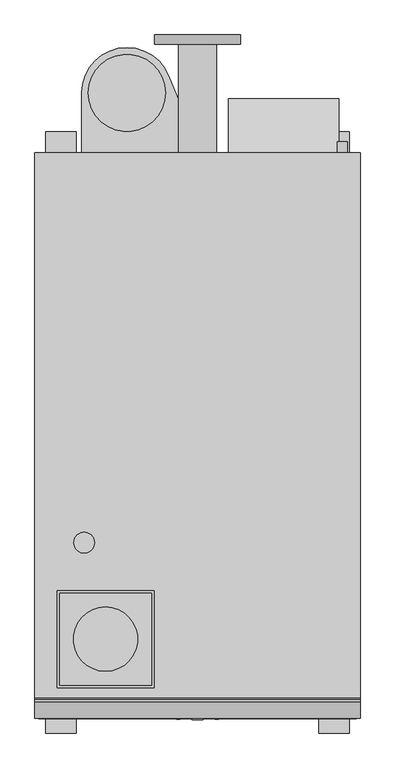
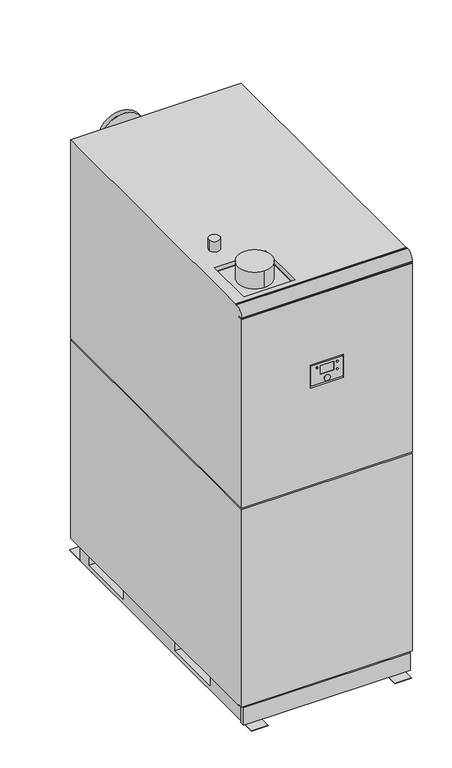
"""IFC4 building model written with IfcOpenShell, lengths in millimetres: unitary equipment geometry, AIC_Boiler_Nesta_Plus_280-840 : N 280 FS Chimney Type C."""

from ifc_helpers import new_model, si_unit, point, frame, frame_2d, origin, place, context, project, spatial, polyline, circle_curve, trimmed, segment, composite_curve, outline, extrude, faceted_brep, source, transform, mapped, element, save
from ifc_brep_helpers import plane_surface, cylinder_surface, advanced_brep


def unitary_equipment_8b69aa03(model_context):
    return source(origin(), model_context, "Body", "SolidModel", [
        extrude(outline(composite_curve([segment(trimmed(circle_curve(frame_2d((100.0, 277.0)), 13.35), [point((100.0, 290.35))], [point((100.0, 263.65))], False, "CARTESIAN"), True, "CONTINUOUS"), segment(trimmed(circle_curve(frame_2d((100.0, 277.0)), 13.35), [point((100.0, 263.65))], [point((100.0, 290.35))], False, "CARTESIAN"), True, "CONTINUOUS")], self_intersect=False)), frame((0.0, 91.0, 0.0), z_axis=(0.0, 1.0, 0.0), x_axis=(0.0, 0.0, 1.0)), (0.0, 0.0, 1.0), 24.0),
        faceted_brep([(330.0, 0.0, 80.0), (330.0, 126.0, 80.0), (330.0, 126.0, 81.0), (330.0, 1.0, 81.0), (330.0, 1.0, 140.0), (330.0, 126.0, 140.0), (330.0, 126.0, 242.0), (330.0, 0.0, 310.0), (72.0, 0.0, 80.0), (72.0, 0.0, 310.0), (72.0, 126.0, 242.0), (72.0, 126.0, 80.0), (248.0, 126.0, 140.0), (248.0, 126.0, 81.0), (297.0, 1.0, 140.0), (297.0, 1.0, 81.0), (297.0, 91.0, 81.0), (297.0, 91.0, 140.0), (248.0, 91.0, 81.0), (248.0, 91.0, 140.0)], [[[0, 1, 2, 3, 4, 5, 6, 7]], [[8, 9, 10, 11]], [[1, 0, 8, 11]], [[11, 10, 6, 5, 12, 13, 2, 1]], [[7, 6, 10, 9]], [[0, 7, 9, 8]], [[14, 4, 3, 15]], [[14, 15, 16, 17]], [[15, 3, 2, 13, 18, 16]], [[4, 14, 17, 19, 12, 5]], [[19, 17, 16, 18]], [[19, 18, 13, 12]]]),
        extrude(outline(composite_curve([segment(trimmed(circle_curve(frame_2d((1520.0, 0.0)), 13.0), [point((1520.0, -13.0))], [point((1520.0, 13.0))], False, "CARTESIAN"), True, "CONTINUOUS"), segment(trimmed(circle_curve(frame_2d((1520.0, 0.0)), 13.0), [point((1520.0, 13.0))], [point((1520.0, -13.0))], False, "CARTESIAN"), True, "CONTINUOUS")], self_intersect=False)), frame((0.0, -1323.0, 0.0), z_axis=(0.0, 1.0, 0.0), x_axis=(0.0, 0.0, 1.0)), (0.0, 0.0, 1.0), 3.0),
        extrude(outline(composite_curve([segment(trimmed(circle_curve(frame_2d((1581.0, -45.0)), 4.0), [point((1581.0, -49.0))], [point((1581.0, -41.0))], False, "CARTESIAN"), True, "CONTINUOUS"), segment(trimmed(circle_curve(frame_2d((1581.0, -45.0)), 4.0), [point((1581.0, -41.0))], [point((1581.0, -49.0))], False, "CARTESIAN"), True, "CONTINUOUS")], self_intersect=False)), frame((0.0, -1322.0, 0.0), z_axis=(0.0, 1.0, 0.0), x_axis=(0.0, 0.0, 1.0)), (0.0, 0.0, 1.0), 2.0),
        extrude(outline(composite_curve([segment(trimmed(circle_curve(frame_2d((1581.0, 45.0)), 4.0), [point((1581.0, 41.0))], [point((1581.0, 49.0))], False, "CARTESIAN"), True, "CONTINUOUS"), segment(trimmed(circle_curve(frame_2d((1581.0, 45.0)), 4.0), [point((1581.0, 49.0))], [point((1581.0, 41.0))], False, "CARTESIAN"), True, "CONTINUOUS")], self_intersect=False)), frame((0.0, -1322.0, 0.0), z_axis=(0.0, 1.0, 0.0), x_axis=(0.0, 0.0, 1.0)), (0.0, 0.0, 1.0), 2.0),
        extrude(outline(composite_curve([segment(trimmed(circle_curve(frame_2d((1546.0, 45.0)), 4.0), [point((1546.0, 41.0))], [point((1546.0, 49.0))], False, "CARTESIAN"), True, "CONTINUOUS"), segment(trimmed(circle_curve(frame_2d((1546.0, 45.0)), 4.0), [point((1546.0, 49.0))], [point((1546.0, 41.0))], False, "CARTESIAN"), True, "CONTINUOUS")], self_intersect=False)), frame((0.0, -1322.0, 0.0), z_axis=(0.0, 1.0, 0.0), x_axis=(0.0, 0.0, 1.0)), (0.0, 0.0, 1.0), 2.0),
        faceted_brep([(71.0, -1310.0, 1596.0), (71.0, -1310.0, 1502.0), (-71.0, -1310.0, 1502.0), (-71.0, -1310.0, 1596.0), (71.0, -1320.0, 1596.0), (-71.0, -1320.0, 1596.0), (-71.0, -1320.0, 1502.0), (71.0, -1320.0, 1502.0), (-30.0, -1320.0, 1585.0), (30.0, -1320.0, 1585.0), (30.0, -1320.0, 1545.0), (-30.0, -1320.0, 1545.0), (30.0, -1319.0, 1585.0), (-30.0, -1319.0, 1585.0), (-30.0, -1319.0, 1545.0), (30.0, -1319.0, 1545.0)], [[[0, 1, 2, 3]], [[4, 5, 6, 7], [8, 9, 10, 11]], [[0, 3, 5, 4]], [[3, 2, 6, 5]], [[2, 1, 7, 6]], [[1, 0, 4, 7]], [[12, 13, 14, 15]], [[13, 12, 9, 8]], [[14, 13, 8, 11]], [[15, 14, 11, 10]], [[12, 15, 10, 9]]]),
        extrude(outline(composite_curve([segment(trimmed(circle_curve(frame_2d((-265.0, -910.0)), 24.15), [point((-289.15, -910.0))], [point((-240.85, -910.0))], False, "CARTESIAN"), True, "CONTINUOUS"), segment(trimmed(circle_curve(frame_2d((-265.0, -910.0)), 24.15), [point((-240.85, -910.0))], [point((-289.15, -910.0))], False, "CARTESIAN"), True, "CONTINUOUS")], self_intersect=False)), frame((0.0, 0.0, 1970.0), z_axis=(0.0, 0.0, 1.0), x_axis=(1.0, 0.0, 0.0)), (0.0, 0.0, 1.0), 49.0),
        extrude(outline(composite_curve([segment(trimmed(circle_curve(frame_2d((1038.0, 338.0)), 11.6), [point((1038.0, 326.4))], [point((1038.0, 349.6))], False, "CARTESIAN"), True, "CONTINUOUS"), segment(trimmed(circle_curve(frame_2d((1038.0, 338.0)), 11.6), [point((1038.0, 349.6))], [point((1038.0, 326.4))], False, "CARTESIAN"), True, "CONTINUOUS")], self_intersect=False)), frame((0.0, 0.0, 0.0), z_axis=(0.0, 1.0, 0.0), x_axis=(0.0, 0.0, 1.0)), (0.0, 0.0, 1.0), 26.0),
        extrude(outline(composite_curve([segment(trimmed(circle_curve(frame_2d((-215.0, -1135.0)), 75.0), [point((-215.0, -1060.0))], [point((-215.0, -1210.0))], False, "CARTESIAN"), True, "CONTINUOUS"), segment(trimmed(circle_curve(frame_2d((-215.0, -1135.0)), 75.0), [point((-215.0, -1210.0))], [point((-215.0, -1060.0))], False, "CARTESIAN"), True, "CONTINUOUS")], self_intersect=False)), frame((0.0, 0.0, 1950.0), z_axis=(0.0, 0.0, 1.0), x_axis=(1.0, 0.0, 0.0)), (0.0, 0.0, 1.0), 80.0),
        extrude(outline(polyline([(-107.5, -1027.5), (-107.5, -1242.5), (-322.5, -1242.5), (-322.5, -1027.5), (-107.5, -1027.5)])), frame((0.0, 0.0, 1950.0), z_axis=(0.0, 0.0, 1.0), x_axis=(1.0, 0.0, 0.0)), (0.0, 0.0, 1.0), 1.0),
        advanced_brep(
        [(100.0, 253.0, 1706.0), (-100.0, 253.0, 1706.0), (44.0, 253.0, 1706.0), (-44.0, 253.0, 1706.0), (100.0, 275.0, 1706.0), (-100.0, 275.0, 1706.0), (-44.0, -10.0, 1706.0), (44.0, -10.0, 1706.0)],
        [
            (0, 1, circle_curve(frame((0.0, 253.0, 1706.0), z_axis=(0.0, -1.0, 0.0), x_axis=(-1.0, 0.0, 0.0)), 100.0)),
            (1, 0, circle_curve(frame((0.0, 253.0, 1706.0), z_axis=(0.0, -1.0, 0.0), x_axis=(-1.0, 0.0, 0.0)), 100.0)),
            (2, 3, circle_curve(frame((0.0, 253.0, 1706.0), z_axis=(0.0, 1.0, 0.0), x_axis=(1.0, 0.0, 0.0)), 44.0)),
            (3, 2, circle_curve(frame((0.0, 253.0, 1706.0), z_axis=(0.0, 1.0, 0.0), x_axis=(1.0, 0.0, 0.0)), 44.0)),
            (4, 5, circle_curve(frame((0.0, 275.0, 1706.0), z_axis=(0.0, 1.0, 0.0), x_axis=(-1.0, 0.0, 0.0)), 100.0)),
            (5, 4, circle_curve(frame((0.0, 275.0, 1706.0), z_axis=(0.0, 1.0, 0.0), x_axis=(-1.0, 0.0, 0.0)), 100.0)),
            (1, 5),
            (4, 0),
            (6, 7, circle_curve(frame((0.0, -10.0, 1706.0), z_axis=(0.0, -1.0, 0.0), x_axis=(1.0, 0.0, 0.0)), 44.0)),
            (7, 6, circle_curve(frame((0.0, -10.0, 1706.0), z_axis=(0.0, -1.0, 0.0), x_axis=(1.0, 0.0, 0.0)), 44.0)),
            (6, 3),
            (2, 7),
        ],
        [
            plane_surface(frame((-100.0, 253.0, 1706.0), z_axis=(0.0, -1.0, 0.0), x_axis=(0.0, 0.0, -1.0))),
            plane_surface(frame((-100.0, 275.0, 1706.0), z_axis=(0.0, 1.0, 0.0), x_axis=(0.0, 0.0, 1.0))),
            cylinder_surface(frame((0.0, 253.0, 1706.0), z_axis=(0.0, 1.0, 0.0), x_axis=(-1.0, 0.0, 0.0)), 100.0),
            plane_surface(frame((44.0, -10.0, 1706.0), z_axis=(0.0, -1.0, 0.0), x_axis=(0.0, 0.0, 1.0))),
            cylinder_surface(frame((0.0, 275.0, 1706.0), z_axis=(0.0, -1.0, 0.0), x_axis=(1.0, 0.0, 0.0)), 44.0),
        ],
        [
            (0, [[1, 2], [3, 4]]),
            (1, [[5, 6]]),
            (2, [[-2, 7, -5, 8]]),
            (2, [[-1, -8, -6, -7]]),
            (3, [[9, 10]]),
            (4, [[-9, 11, -3, 12]]),
            (4, [[-10, -12, -4, -11]]),
        ],
    ),
        advanced_brep(
        [(-44.0, 0.0, 335.0), (44.0, 0.0, 335.0), (100.0, 275.0, 335.0), (-100.0, 275.0, 335.0), (-44.0, 253.0, 335.0), (44.0, 253.0, 335.0), (100.0, 253.0, 335.0), (-100.0, 253.0, 335.0)],
        [
            (0, 1, circle_curve(frame((0.0, 0.0, 335.0), z_axis=(0.0, -1.0, 0.0), x_axis=(1.0, 0.0, 0.0)), 44.0)),
            (1, 0, circle_curve(frame((0.0, 0.0, 335.0), z_axis=(0.0, -1.0, 0.0), x_axis=(1.0, 0.0, 0.0)), 44.0)),
            (2, 3, circle_curve(frame((0.0, 275.0, 335.0), z_axis=(0.0, 1.0, 0.0), x_axis=(-1.0, 0.0, 0.0)), 100.0)),
            (3, 2, circle_curve(frame((0.0, 275.0, 335.0), z_axis=(0.0, 1.0, 0.0), x_axis=(-1.0, 0.0, 0.0)), 100.0)),
            (0, 4),
            (4, 5, circle_curve(frame((0.0, 253.0, 335.0), z_axis=(0.0, -1.0, 0.0), x_axis=(1.0, 0.0, 0.0)), 44.0)),
            (5, 1),
            (5, 4, circle_curve(frame((0.0, 253.0, 335.0), z_axis=(0.0, -1.0, 0.0), x_axis=(1.0, 0.0, 0.0)), 44.0)),
            (6, 7, circle_curve(frame((0.0, 253.0, 335.0), z_axis=(0.0, -1.0, 0.0), x_axis=(-1.0, 0.0, 0.0)), 100.0)),
            (7, 6, circle_curve(frame((0.0, 253.0, 335.0), z_axis=(0.0, -1.0, 0.0), x_axis=(-1.0, 0.0, 0.0)), 100.0)),
            (7, 3),
            (2, 6),
        ],
        [
            plane_surface(frame((44.0, 0.0, 335.0), z_axis=(0.0, -1.0, 0.0), x_axis=(0.0, 0.0, 1.0))),
            plane_surface(frame((44.0, 275.0, 335.0), z_axis=(0.0, 1.0, 0.0), x_axis=(0.0, 0.0, -1.0))),
            cylinder_surface(frame((0.0, 275.0, 335.0), z_axis=(0.0, -1.0, 0.0), x_axis=(1.0, 0.0, 0.0)), 44.0),
            plane_surface(frame((-100.0, 253.0, 335.0), z_axis=(0.0, -1.0, 0.0), x_axis=(0.0, 0.0, -1.0))),
            cylinder_surface(frame((0.0, 253.0, 335.0), z_axis=(0.0, 1.0, 0.0), x_axis=(-1.0, 0.0, 0.0)), 100.0),
        ],
        [
            (0, [[1, 2]]),
            (1, [[3, 4]]),
            (2, [[-1, 5, 6, 7]]),
            (2, [[-2, -7, 8, -5]]),
            (3, [[9, 10], [-6, -8]]),
            (4, [[-10, 11, -3, 12]]),
            (4, [[-9, -12, -4, -11]]),
        ],
    ),
        extrude(outline(composite_curve([segment(trimmed(circle_curve(frame_2d((-165.0, 140.0)), 90.0), [point((-75.0, 140.0))], [point((-255.0, 140.0))], False, "CARTESIAN"), True, "CONTINUOUS"), segment(trimmed(circle_curve(frame_2d((-165.0, 140.0)), 90.0), [point((-255.0, 140.0))], [point((-75.0, 140.0))], False, "CARTESIAN"), True, "CONTINUOUS")], self_intersect=False)), frame((0.0, 0.0, 228.0), z_axis=(0.0, 0.0, 1.0), x_axis=(1.0, 0.0, 0.0)), (0.0, 0.0, 1.0), 96.0),
        extrude(outline(composite_curve([segment(trimmed(circle_curve(frame_2d((-165.0, 140.0)), 105.6582683), [point((-270.6582683, 140.0))], [point((-67.3169163, 180.2701481))], False, "CARTESIAN"), True, "CONTINUOUS"), segment(polyline([(-67.3169163, 180.2701481), (7.0, 0.0), (-270.6582683, 0.0), (-270.6582683, 140.0)]), True, "CONTINUOUS")], self_intersect=False)), frame((0.0, 0.0, 157.0), z_axis=(0.0, 0.0, 1.0), x_axis=(1.0, 0.0, 0.0)), (0.0, 0.0, 1.0), 71.0),
        advanced_brep(
        [(380.0, 0.0, 1970.0), (-380.0, 0.0, 1970.0), (-380.0, -1272.0, 1970.0), (380.0, -1272.0, 1970.0), (-328.0, -1022.0, 1970.0), (-102.0, -1022.0, 1970.0), (-102.0, -1248.0, 1970.0), (-328.0, -1248.0, 1970.0), (-380.0, -1281.6616502, 1970.0), (380.0, -1281.6616502, 1970.0), (380.0, -1276.0, 1970.0), (-380.0, -1276.0, 1970.0), (36.0, -1300.0, 0.0), (-36.0, -1300.0, 0.0), (-36.0, -31.0, 0.0), (36.0, -31.0, 0.0), (-355.0, 49.0, 0.0), (-283.0, 49.0, 0.0), (-283.0, -1354.0, 0.0), (-355.0, -1354.0, 0.0), (283.0, 49.0, 0.0), (355.0, 49.0, 0.0), (355.0, -1354.0, 0.0), (283.0, -1354.0, 0.0), (380.0, 0.0, 1036.0), (380.0, -1272.0, 1968.0), (380.0, -1276.0, 1968.0), (380.0, -1320.0, 1931.6616502), (380.0, -1320.0, 1929.0), (380.0, -1300.0, 1929.0), (380.0, -1300.0, 1923.0), (380.0, -1320.0, 1923.0), (380.0, -1320.0, 1036.0), (380.0, 0.0, 1030.0), (380.0, -1320.0, 1030.0), (380.0, -1320.0, 100.0), (380.0, -1300.0, 100.0), (380.0, -1300.0, 95.0), (380.0, 0.0, 95.0), (371.0, 0.0, 1036.0), (371.0, 0.0, 1030.0), (-380.0, 0.0, 95.0), (-380.0, 0.0, 1030.0), (-371.0, 0.0, 1030.0), (-371.0, 0.0, 1036.0), (-380.0, 0.0, 1036.0), (-380.0, -1320.0, 1036.0), (-380.0, -1320.0, 1923.0), (-380.0, -1300.0, 1923.0), (-380.0, -1300.0, 1929.0), (-380.0, -1320.0, 1929.0), (-380.0, -1320.0, 1931.6616502), (-380.0, -1276.0, 1968.0), (-380.0, -1272.0, 1968.0), (-380.0, -1320.0, 1030.0), (-380.0, -1300.0, 95.0), (-380.0, -1300.0, 100.0), (-380.0, -1320.0, 100.0), (-73.0, -1320.0, 1603.0), (73.0, -1320.0, 1603.0), (73.0, -1320.0, 1495.0), (-73.0, -1320.0, 1495.0), (371.0, -1320.0, 12.0), (371.0, -1320.0, 95.0), (-371.0, -1320.0, 95.0), (-371.0, -1320.0, 12.0), (-371.0, -1300.0, 1036.0), (371.0, -1300.0, 1036.0), (371.0, -1300.0, 1030.0), (-371.0, -1300.0, 1030.0), (36.0, -1300.0, 12.0), (-36.0, -1300.0, 12.0), (-371.0, -1300.0, 95.0), (-355.0, -1300.0, 95.0), (-283.0, -1300.0, 95.0), (-36.0, -1300.0, 95.0), (36.0, -1300.0, 95.0), (283.0, -1300.0, 95.0), (355.0, -1300.0, 95.0), (371.0, -1300.0, 95.0), (-283.0, -1300.0, 12.0), (-355.0, -1300.0, 12.0), (-355.0, -1300.0, 3.0), (-283.0, -1300.0, 3.0), (355.0, -1300.0, 12.0), (283.0, -1300.0, 12.0), (283.0, -1300.0, 3.0), (355.0, -1300.0, 3.0), (371.0, -1300.0, 12.0), (-371.0, -1300.0, 12.0), (-36.0, -1300.0, 95.0), (-283.0, -1300.0, 95.0), (-283.0, -31.0, 95.0), (-355.0, -31.0, 95.0), (-355.0, -1300.0, 95.0), (355.0, -1300.0, 95.0), (355.0, -31.0, 95.0), (283.0, -31.0, 95.0), (283.0, -1300.0, 95.0), (36.0, -1300.0, 95.0), (36.0, -31.0, 95.0), (-36.0, -31.0, 95.0), (-355.0, -31.0, 3.0), (-355.0, 49.0, 3.0), (-355.0, -1354.0, 3.0), (-355.0, -762.0, 80.0), (-355.0, -1034.0, 80.0), (-355.0, -1034.0, 20.0), (-355.0, -762.0, 20.0), (-355.0, -100.0, 80.0), (-355.0, -362.0, 80.0), (-355.0, -362.0, 20.0), (-355.0, -100.0, 20.0), (355.0, -1354.0, 3.0), (355.0, 49.0, 3.0), (355.0, -31.0, 3.0), (355.0, -1034.0, 80.0), (355.0, -762.0, 80.0), (355.0, -762.0, 20.0), (355.0, -1034.0, 20.0), (355.0, -362.0, 80.0), (355.0, -100.0, 80.0), (355.0, -100.0, 20.0), (355.0, -362.0, 20.0), (-283.0, -1354.0, 3.0), (-283.0, 49.0, 3.0), (-283.0, -31.0, 3.0), (-283.0, -1034.0, 80.0), (-283.0, -762.0, 80.0), (-283.0, -762.0, 20.0), (-283.0, -1034.0, 20.0), (-283.0, -362.0, 80.0), (-283.0, -100.0, 80.0), (-283.0, -100.0, 20.0), (-283.0, -362.0, 20.0), (-36.0, -762.0, 80.0), (-36.0, -1034.0, 80.0), (-36.0, -1034.0, 20.0), (-36.0, -762.0, 20.0), (-36.0, -100.0, 80.0), (-36.0, -362.0, 80.0), (-36.0, -362.0, 20.0), (-36.0, -100.0, 20.0), (36.0, -1034.0, 80.0), (36.0, -762.0, 80.0), (36.0, -762.0, 20.0), (36.0, -1034.0, 20.0), (36.0, -362.0, 80.0), (36.0, -100.0, 80.0), (36.0, -100.0, 20.0), (36.0, -362.0, 20.0), (283.0, -31.0, 3.0), (283.0, 49.0, 3.0), (283.0, -1354.0, 3.0), (283.0, -762.0, 80.0), (283.0, -1034.0, 80.0), (283.0, -1034.0, 20.0), (283.0, -762.0, 20.0), (283.0, -100.0, 80.0), (283.0, -362.0, 80.0), (283.0, -362.0, 20.0), (283.0, -100.0, 20.0), (73.0, -1300.0, 1603.0), (-73.0, -1300.0, 1603.0), (-73.0, -1300.0, 1495.0), (73.0, -1300.0, 1495.0), (-102.0, -1022.0, 1950.0), (-328.0, -1022.0, 1950.0), (-328.0, -1248.0, 1950.0), (-102.0, -1248.0, 1950.0)],
        [
            (0, 1),
            (1, 2),
            (2, 3),
            (3, 0),
            (4, 5),
            (5, 6),
            (6, 7),
            (7, 4),
            (8, 9),
            (9, 10),
            (10, 11),
            (11, 8),
            (12, 13),
            (13, 14),
            (14, 15),
            (15, 12),
            (16, 17),
            (17, 18),
            (18, 19),
            (19, 16),
            (20, 21),
            (21, 22),
            (22, 23),
            (23, 20),
            (24, 0),
            (3, 25),
            (25, 26),
            (26, 10),
            (9, 27, circle_curve(frame((380.0, -1281.6616502, 1931.6616502), z_axis=(1.0, 0.0, 0.0), x_axis=(0.0, 1.0, 0.0)), 38.3383498)),
            (27, 28),
            (28, 29),
            (29, 30),
            (30, 31),
            (31, 32),
            (32, 24),
            (33, 34),
            (34, 35),
            (35, 36),
            (36, 37),
            (37, 38),
            (38, 33),
            (24, 39),
            (39, 40),
            (40, 33),
            (38, 41),
            (41, 42),
            (42, 43),
            (43, 44),
            (44, 45),
            (45, 1),
            (45, 46),
            (46, 47),
            (47, 48),
            (48, 49),
            (49, 50),
            (50, 51),
            (51, 8, circle_curve(frame((-380.0, -1281.6616502, 1931.6616502), z_axis=(-1.0, 0.0, 0.0), x_axis=(0.0, 1.0, 0.0)), 38.3383498)),
            (11, 52),
            (52, 53),
            (53, 2),
            (54, 42),
            (41, 55),
            (55, 56),
            (56, 57),
            (57, 54),
            (46, 32),
            (31, 47),
            (58, 59),
            (59, 60),
            (60, 61),
            (61, 58),
            (34, 54),
            (57, 35),
            (27, 51),
            (50, 28),
            (62, 63),
            (63, 64),
            (64, 65),
            (65, 62),
            (44, 66),
            (66, 67),
            (67, 39),
            (40, 68),
            (68, 69),
            (69, 43),
            (67, 68),
            (66, 69),
            (30, 48),
            (29, 49),
            (26, 52),
            (25, 53),
            (12, 70),
            (70, 71),
            (71, 13),
            (36, 56),
            (55, 72),
            (72, 73),
            (73, 74),
            (74, 75),
            (75, 76),
            (76, 77),
            (77, 78),
            (78, 79),
            (79, 37),
            (80, 81),
            (81, 82),
            (82, 83),
            (83, 80),
            (84, 85),
            (85, 86),
            (86, 87),
            (87, 84),
            (62, 88),
            (88, 79),
            (79, 63),
            (65, 89),
            (89, 81),
            (80, 71),
            (70, 85),
            (84, 88),
            (64, 72),
            (72, 89),
            (90, 91),
            (91, 92),
            (92, 93),
            (93, 94),
            (94, 72),
            (79, 95),
            (95, 96),
            (96, 97),
            (97, 98),
            (98, 99),
            (99, 100),
            (100, 101),
            (101, 90),
            (94, 81),
            (93, 102),
            (102, 103),
            (103, 16),
            (19, 104),
            (104, 82),
            (105, 106),
            (106, 107),
            (107, 108),
            (108, 105),
            (109, 110),
            (110, 111),
            (111, 112),
            (112, 109),
            (95, 84),
            (87, 113),
            (113, 22),
            (21, 114),
            (114, 115),
            (115, 96),
            (116, 117),
            (117, 118),
            (118, 119),
            (119, 116),
            (120, 121),
            (121, 122),
            (122, 123),
            (123, 120),
            (91, 80),
            (83, 124),
            (124, 18),
            (17, 125),
            (125, 126),
            (126, 92),
            (127, 128),
            (128, 129),
            (129, 130),
            (130, 127),
            (131, 132),
            (132, 133),
            (133, 134),
            (134, 131),
            (90, 71),
            (101, 14),
            (135, 136),
            (136, 137),
            (137, 138),
            (138, 135),
            (139, 140),
            (140, 141),
            (141, 142),
            (142, 139),
            (99, 70),
            (15, 100),
            (143, 144),
            (144, 145),
            (145, 146),
            (146, 143),
            (147, 148),
            (148, 149),
            (149, 150),
            (150, 147),
            (98, 85),
            (97, 151),
            (151, 152),
            (152, 20),
            (23, 153),
            (153, 86),
            (154, 155),
            (155, 156),
            (156, 157),
            (157, 154),
            (158, 159),
            (159, 160),
            (160, 161),
            (161, 158),
            (126, 102),
            (115, 151),
            (105, 128),
            (127, 106),
            (135, 144),
            (143, 136),
            (154, 117),
            (116, 155),
            (130, 107),
            (146, 137),
            (119, 156),
            (129, 108),
            (145, 138),
            (118, 157),
            (109, 132),
            (131, 110),
            (139, 148),
            (147, 140),
            (158, 121),
            (120, 159),
            (134, 111),
            (150, 141),
            (123, 160),
            (133, 112),
            (149, 142),
            (122, 161),
            (114, 152),
            (125, 103),
            (104, 124),
            (153, 113),
            (162, 163),
            (163, 164),
            (164, 165),
            (165, 162),
            (162, 59),
            (58, 163),
            (61, 164),
            (60, 165),
            (166, 167),
            (167, 168),
            (168, 169),
            (169, 166),
            (166, 5),
            (4, 167),
            (7, 168),
            (6, 169),
        ],
        [
            plane_surface(frame((380.0, -1320.0, 1970.0), z_axis=(0.0, 0.0, 1.0), x_axis=(0.0, 1.0, 0.0))),
            plane_surface(frame((380.0, -1320.0, 0.0), z_axis=(0.0, 0.0, -1.0), x_axis=(0.0, -1.0, 0.0))),
            plane_surface(frame((380.0, -1320.0, 1970.0), z_axis=(1.0, 0.0, 0.0), x_axis=(0.0, 0.0, -1.0))),
            plane_surface(frame((380.0, 0.0, 1970.0), z_axis=(0.0, 1.0, 0.0), x_axis=(0.0, 0.0, -1.0))),
            plane_surface(frame((-380.0, 0.0, 1970.0), z_axis=(-1.0, 0.0, 0.0), x_axis=(0.0, 0.0, -1.0))),
            plane_surface(frame((-380.0, -1320.0, 1970.0), z_axis=(0.0, -1.0, 0.0), x_axis=(0.0, 0.0, -1.0))),
            plane_surface(frame((-380.0, 0.0, 1036.0), z_axis=(0.0, 0.0, -1.0), x_axis=(-1.0, 0.0, 0.0))),
            plane_surface(frame((-380.0, 0.0, 1030.0), z_axis=(0.0, 0.0, 1.0), x_axis=(1.0, 0.0, 0.0))),
            plane_surface(frame((371.0, 0.0, 1036.0), z_axis=(1.0, 0.0, 0.0), x_axis=(0.0, 0.0, -1.0))),
            plane_surface(frame((371.0, -1300.0, 1036.0), z_axis=(0.0, -1.0, 0.0), x_axis=(0.0, 0.0, -1.0))),
            plane_surface(frame((-371.0, -1300.0, 1036.0), z_axis=(-1.0, 0.0, 0.0), x_axis=(0.0, 0.0, -1.0))),
            cylinder_surface(frame((-380.0, -1281.6616502, 1931.6616502), z_axis=(-1.0, 0.0, 0.0), x_axis=(0.0, 1.0, 0.0)), 38.3383498),
            plane_surface(frame((380.0, -1320.0, 1923.0), z_axis=(0.0, 0.0, 1.0), x_axis=(-1.0, 0.0, 0.0))),
            plane_surface(frame((380.0, -1300.0, 1923.0), z_axis=(0.0, -1.0, 0.0), x_axis=(-1.0, 0.0, 0.0))),
            plane_surface(frame((380.0, -1300.0, 1929.0), z_axis=(0.0, 0.0, -1.0), x_axis=(-1.0, 0.0, 0.0))),
            plane_surface(frame((380.0, -1276.0, 1970.0), z_axis=(0.0, 1.0, 0.0), x_axis=(-1.0, 0.0, 0.0))),
            plane_surface(frame((380.0, -1276.0, 1968.0), z_axis=(0.0, 0.0, 1.0), x_axis=(-1.0, 0.0, 0.0))),
            plane_surface(frame((380.0, -1272.0, 1968.0), z_axis=(0.0, -1.0, 0.0), x_axis=(-1.0, 0.0, 0.0))),
            plane_surface(frame((371.0, -1300.0, 95.0), z_axis=(0.0, -1.0, 0.0), x_axis=(0.0, 0.0, 1.0))),
            plane_surface(frame((371.0, -1320.0, 95.0), z_axis=(1.0, 0.0, 0.0), x_axis=(0.0, 1.0, 0.0))),
            plane_surface(frame((371.0, -1320.0, 12.0), z_axis=(0.0, 0.0, -1.0), x_axis=(0.0, 1.0, 0.0))),
            plane_surface(frame((-371.0, -1320.0, 12.0), z_axis=(-1.0, 0.0, 0.0), x_axis=(0.0, 1.0, 0.0))),
            plane_surface(frame((-371.0, -1320.0, 95.0), z_axis=(0.0, 0.0, 1.0), x_axis=(0.0, 1.0, 0.0))),
            plane_surface(frame((380.0, -1320.0, 100.0), z_axis=(0.0, 0.0, -1.0), x_axis=(0.0, 1.0, 0.0))),
            plane_surface(frame((-380.0, 0.0, 95.0), z_axis=(0.0, 0.0, -1.0), x_axis=(-1.0, 0.0, 0.0))),
            plane_surface(frame((-380.0, -1300.0, 95.0), z_axis=(0.0, 1.0, 0.0), x_axis=(0.0, 0.0, -1.0))),
            plane_surface(frame((-355.0, -1300.0, 95.0), z_axis=(-1.0, 0.0, 0.0), x_axis=(0.0, 0.0, -1.0))),
            plane_surface(frame((355.0, 0.0, 95.0), z_axis=(1.0, 0.0, 0.0), x_axis=(0.0, 0.0, -1.0))),
            plane_surface(frame((355.0, -1300.0, 95.0), z_axis=(0.0, 1.0, 0.0), x_axis=(0.0, 0.0, -1.0))),
            plane_surface(frame((-283.0, 0.0, 95.0), z_axis=(1.0, 0.0, 0.0), x_axis=(0.0, 0.0, -1.0))),
            plane_surface(frame((-283.0, -1300.0, 95.0), z_axis=(0.0, 1.0, 0.0), x_axis=(0.0, 0.0, -1.0))),
            plane_surface(frame((-36.0, -1300.0, 95.0), z_axis=(-1.0, 0.0, 0.0), x_axis=(0.0, 0.0, -1.0))),
            plane_surface(frame((36.0, 0.0, 95.0), z_axis=(1.0, 0.0, 0.0), x_axis=(0.0, 0.0, -1.0))),
            plane_surface(frame((36.0, -1300.0, 95.0), z_axis=(0.0, 1.0, 0.0), x_axis=(0.0, 0.0, -1.0))),
            plane_surface(frame((283.0, -1300.0, 95.0), z_axis=(-1.0, 0.0, 0.0), x_axis=(0.0, 0.0, -1.0))),
            plane_surface(frame((-380.0, -31.0, 95.0), z_axis=(0.0, 1.0, 0.0), x_axis=(0.0, 0.0, -1.0))),
            plane_surface(frame((355.0, -762.0, 80.0), z_axis=(0.0, 0.0, -1.0), x_axis=(-1.0, 0.0, 0.0))),
            plane_surface(frame((355.0, -1034.0, 80.0), z_axis=(0.0, 1.0, 0.0), x_axis=(-1.0, 0.0, 0.0))),
            plane_surface(frame((355.0, -1034.0, 20.0), z_axis=(0.0, 0.0, 1.0), x_axis=(-1.0, 0.0, 0.0))),
            plane_surface(frame((355.0, -762.0, 20.0), z_axis=(0.0, -1.0, 0.0), x_axis=(-1.0, 0.0, 0.0))),
            plane_surface(frame((355.0, -100.0, 80.0), z_axis=(0.0, 0.0, -1.0), x_axis=(-1.0, 0.0, 0.0))),
            plane_surface(frame((355.0, -362.0, 80.0), z_axis=(0.0, 1.0, 0.0), x_axis=(-1.0, 0.0, 0.0))),
            plane_surface(frame((355.0, -362.0, 20.0), z_axis=(0.0, 0.0, 1.0), x_axis=(-1.0, 0.0, 0.0))),
            plane_surface(frame((355.0, -100.0, 20.0), z_axis=(0.0, -1.0, 0.0), x_axis=(-1.0, 0.0, 0.0))),
            plane_surface(frame((-355.0, 49.0, 3.0), z_axis=(0.0, 0.0, 1.0), x_axis=(-1.0, 0.0, 0.0))),
            plane_surface(frame((-283.0, 49.0, 3.0), z_axis=(0.0, 1.0, 0.0), x_axis=(0.0, 0.0, -1.0))),
            plane_surface(frame((355.0, 49.0, 3.0), z_axis=(0.0, 1.0, 0.0), x_axis=(0.0, 0.0, -1.0))),
            plane_surface(frame((-355.0, -1354.0, 3.0), z_axis=(0.0, -1.0, 0.0), x_axis=(0.0, 0.0, -1.0))),
            plane_surface(frame((283.0, -1354.0, 3.0), z_axis=(0.0, -1.0, 0.0), x_axis=(0.0, 0.0, -1.0))),
            plane_surface(frame((-73.0, -1300.0, 1603.0), z_axis=(0.0, -1.0, 0.0), x_axis=(1.0, 0.0, 0.0))),
            plane_surface(frame((73.0, -1320.0, 1603.0), z_axis=(0.0, 0.0, -1.0), x_axis=(0.0, 1.0, 0.0))),
            plane_surface(frame((-73.0, -1320.0, 1603.0), z_axis=(1.0, 0.0, 0.0), x_axis=(0.0, 1.0, 0.0))),
            plane_surface(frame((-73.0, -1320.0, 1495.0), z_axis=(0.0, 0.0, 1.0), x_axis=(0.0, 1.0, 0.0))),
            plane_surface(frame((73.0, -1320.0, 1495.0), z_axis=(-1.0, 0.0, 0.0), x_axis=(0.0, 1.0, 0.0))),
            plane_surface(frame((-328.0, -1022.0, 1950.0), z_axis=(0.0, 0.0, 1.0), x_axis=(1.0, 0.0, 0.0))),
            plane_surface(frame((-102.0, -1022.0, 1970.0), z_axis=(0.0, -1.0, 0.0), x_axis=(0.0, 0.0, -1.0))),
            plane_surface(frame((-328.0, -1022.0, 1970.0), z_axis=(1.0, 0.0, 0.0), x_axis=(0.0, 0.0, -1.0))),
            plane_surface(frame((-328.0, -1248.0, 1970.0), z_axis=(0.0, 1.0, 0.0), x_axis=(0.0, 0.0, -1.0))),
            plane_surface(frame((-102.0, -1248.0, 1970.0), z_axis=(-1.0, 0.0, 0.0), x_axis=(0.0, 0.0, -1.0))),
        ],
        [
            (0, [[1, 2, 3, 4], [5, 6, 7, 8]]),
            (0, [[9, 10, 11, 12]]),
            (1, [[13, 14, 15, 16]]),
            (1, [[17, 18, 19, 20]]),
            (1, [[21, 22, 23, 24]]),
            (2, [[25, -4, 26, 27, 28, -10, 29, 30, 31, 32, 33, 34, 35]]),
            (2, [[36, 37, 38, 39, 40, 41]]),
            (3, [[-1, -25, 42, 43, 44, -41, 45, 46, 47, 48, 49, 50]]),
            (4, [[-50, 51, 52, 53, 54, 55, 56, 57, -12, 58, 59, 60, -2]]),
            (4, [[61, -46, 62, 63, 64, 65]]),
            (5, [[66, -34, 67, -52], [68, 69, 70, 71]]),
            (5, [[72, -65, 73, -37]]),
            (5, [[74, -56, 75, -30]]),
            (5, [[76, 77, 78, 79]]),
            (6, [[80, 81, 82, -42, -35, -66, -51, -49]]),
            (7, [[83, 84, 85, -47, -61, -72, -36, -44]]),
            (8, [[-82, 86, -83, -43]]),
            (9, [[-81, 87, -84, -86]]),
            (10, [[-80, -48, -85, -87]]),
            (11, [[-9, -57, -74, -29]]),
            (12, [[88, -53, -67, -33]]),
            (13, [[-88, -32, 89, -54]]),
            (14, [[-89, -31, -75, -55]]),
            (15, [[90, -58, -11, -28]]),
            (16, [[-90, -27, 91, -59]]),
            (17, [[-91, -26, -3, -60]]),
            (18, [[-13, 92, 93, 94]]),
            (18, [[95, -63, 96, 97, 98, 99, 100, 101, 102, 103, 104, -39]]),
            (18, [[105, 106, 107, 108]]),
            (18, [[109, 110, 111, 112]]),
            (19, [[113, 114, 115, -76]]),
            (20, [[-113, -79, 116, 117, -105, 118, -93, 119, -109, 120]]),
            (21, [[-116, -78, 121, 122]]),
            (22, [[-115, -103, -102, -101, -100, -99, -98, -97, -121, -77]]),
            (23, [[-95, -38, -73, -64]]),
            (24, [[123, 124, 125, 126, 127, -96, -62, -45, -40, -104, 128, 129, 130, 131, 132, 133, 134, 135]]),
            (25, [[136, -117, -122, -127]]),
            (26, [[-136, -126, 137, 138, 139, -20, 140, 141, -106], [142, 143, 144, 145], [146, 147, 148, 149]]),
            (27, [[150, -112, 151, 152, -22, 153, 154, 155, -129], [156, 157, 158, 159], [160, 161, 162, 163]]),
            (28, [[-128, -114, -120, -150]]),
            (29, [[164, -108, 165, 166, -18, 167, 168, 169, -124], [170, 171, 172, 173], [174, 175, 176, 177]]),
            (30, [[-123, 178, -118, -164]]),
            (31, [[-178, -135, 179, -14, -94], [180, 181, 182, 183], [184, 185, 186, 187]]),
            (32, [[188, -92, -16, 189, -133], [190, 191, 192, 193], [194, 195, 196, 197]]),
            (33, [[-132, 198, -119, -188]]),
            (34, [[-198, -131, 199, 200, 201, -24, 202, 203, -110], [204, 205, 206, 207], [208, 209, 210, 211]]),
            (35, [[-125, -169, 212, -137]]),
            (35, [[-130, -155, 213, -199]]),
            (35, [[-134, -189, -15, -179]]),
            (36, [[214, -170, 215, -142]]),
            (36, [[216, -190, 217, -180]]),
            (36, [[218, -156, 219, -204]]),
            (37, [[-215, -173, 220, -143]]),
            (37, [[-217, -193, 221, -181]]),
            (37, [[-219, -159, 222, -205]]),
            (38, [[-220, -172, 223, -144]]),
            (38, [[-221, -192, 224, -182]]),
            (38, [[-222, -158, 225, -206]]),
            (39, [[-214, -145, -223, -171]]),
            (39, [[-216, -183, -224, -191]]),
            (39, [[-218, -207, -225, -157]]),
            (40, [[226, -174, 227, -146]]),
            (40, [[228, -194, 229, -184]]),
            (40, [[230, -160, 231, -208]]),
            (41, [[-227, -177, 232, -147]]),
            (41, [[-229, -197, 233, -185]]),
            (41, [[-231, -163, 234, -209]]),
            (42, [[-232, -176, 235, -148]]),
            (42, [[-233, -196, 236, -186]]),
            (42, [[-234, -162, 237, -210]]),
            (43, [[-226, -149, -235, -175]]),
            (43, [[-228, -187, -236, -195]]),
            (43, [[-230, -211, -237, -161]]),
            (44, [[-200, -213, -154, 238]]),
            (44, [[239, -138, -212, -168]]),
            (44, [[240, -165, -107, -141]]),
            (44, [[241, -151, -111, -203]]),
            (45, [[-239, -167, -17, -139]]),
            (46, [[-238, -153, -21, -201]]),
            (47, [[-240, -140, -19, -166]]),
            (48, [[-241, -202, -23, -152]]),
            (49, [[242, 243, 244, 245]]),
            (50, [[-242, 246, -68, 247]]),
            (51, [[-243, -247, -71, 248]]),
            (52, [[-244, -248, -70, 249]]),
            (53, [[-245, -249, -69, -246]]),
            (54, [[250, 251, 252, 253]]),
            (55, [[-250, 254, -5, 255]]),
            (56, [[-251, -255, -8, 256]]),
            (57, [[-252, -256, -7, 257]]),
            (58, [[-253, -257, -6, -254]]),
        ],
    ),
    ])


if __name__ == "__main__":
    model = new_model("IFC4")
    model_context = context("Model", 3, world=origin())
    ifc_project = project(units=[si_unit("LENGTHUNIT", "METRE", prefix="MILLI")], contexts=[model_context])
    site = spatial("IfcSite", under=ifc_project)
    building = spatial("IfcBuilding", under=site)
    placement = place(None, origin())
    unitary_equipment_shape = unitary_equipment_8b69aa03(model_context)
    element("IfcUnitaryEquipment", 1, ObjectType="AIC_Boiler_Nesta_Plus_280-840 : N 280 FS Chimney Type C", at=placement, inside=building, context=model_context, shape_type="MappedRepresentation", body=[
        mapped(unitary_equipment_shape, transform((0.0, 0.0, 0.0), x_axis=(1.0, 0.0, 0.0), y_axis=(0.0, 1.0, 0.0), z_axis=(0.0, 0.0, 1.0))),
    ])
    save(model, "model.ifc")
